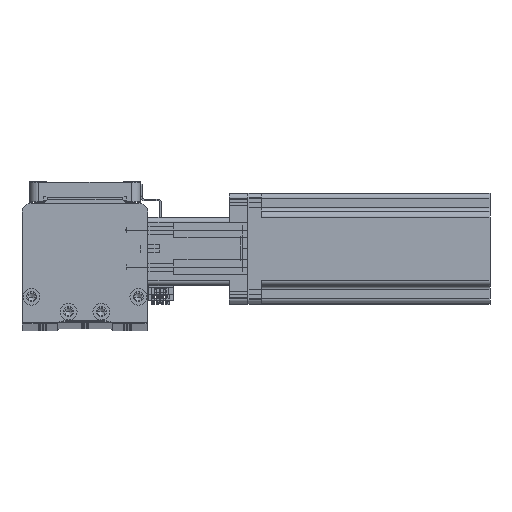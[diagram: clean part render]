
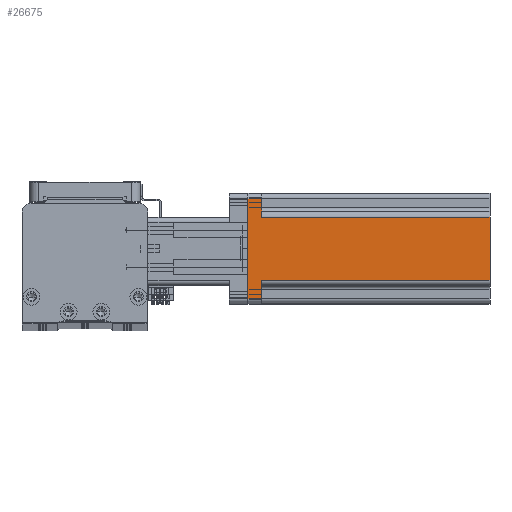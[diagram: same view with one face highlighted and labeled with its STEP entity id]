
A CAD part, top view. The second image highlights one B-rep face of the part: STEP entity #26675.
In plain terms, the highlighted planar face has unit normal (0, 0, 1) as drawn and (1, 0, 0) by its records, which use the part's own axes.
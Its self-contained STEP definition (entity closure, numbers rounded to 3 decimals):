
#130 = CARTESIAN_POINT ( 'NONE',  ( 30., 17., 7.5 ) ) ;
#3637 = DIRECTION ( 'NONE',  ( 0., 0., 1. ) ) ;
#3923 = VERTEX_POINT ( 'NONE', #5520 ) ;
#4295 = LINE ( 'NONE', #47580, #37083 ) ;
#5255 = VECTOR ( 'NONE', #32920, 1000. ) ;
#5520 = CARTESIAN_POINT ( 'NONE',  ( 30., -27., 7.5 ) ) ;
#5570 = CARTESIAN_POINT ( 'NONE',  ( 30., -17., 130.7 ) ) ;
#6726 = CARTESIAN_POINT ( 'NONE',  ( 30., -30., 7.5 ) ) ;
#7429 = ORIENTED_EDGE ( 'NONE', *, *, #41525, .T. ) ;
#8061 = VERTEX_POINT ( 'NONE', #5570 ) ;
#8701 = CARTESIAN_POINT ( 'NONE',  ( 30., -17., 7.5 ) ) ;
#9773 = VERTEX_POINT ( 'NONE', #35119 ) ;
#10075 = ORIENTED_EDGE ( 'NONE', *, *, #31363, .T. ) ;
#10107 = VECTOR ( 'NONE', #10841, 1000. ) ;
#10757 = CARTESIAN_POINT ( 'NONE',  ( 30., -17., 7.5 ) ) ;
#10841 = DIRECTION ( 'NONE',  ( 0., 1., 0. ) ) ;
#11237 = DIRECTION ( 'NONE',  ( 0., 1., 0. ) ) ;
#11834 = LINE ( 'NONE', #54024, #13192 ) ;
#12831 = VECTOR ( 'NONE', #16103, 1000. ) ;
#13192 = VECTOR ( 'NONE', #11237, 1000. ) ;
#13734 = FACE_OUTER_BOUND ( 'NONE', #39872, .T. ) ;
#13885 = EDGE_CURVE ( 'NONE', #44485, #3923, #22839, .T. ) ;
#15993 = VERTEX_POINT ( 'NONE', #20155 ) ;
#16103 = DIRECTION ( 'NONE',  ( 0., 0., -1. ) ) ;
#18785 = EDGE_CURVE ( 'NONE', #8061, #44485, #19714, .T. ) ;
#19714 = LINE ( 'NONE', #10757, #53839 ) ;
#20155 = CARTESIAN_POINT ( 'NONE',  ( 30., 27., 7.5 ) ) ;
#20655 = ORIENTED_EDGE ( 'NONE', *, *, #29610, .T. ) ;
#21408 = LINE ( 'NONE', #32089, #10107 ) ;
#21726 = CARTESIAN_POINT ( 'NONE',  ( 30., 27., 130.7 ) ) ;
#21866 = ORIENTED_EDGE ( 'NONE', *, *, #39496, .T. ) ;
#21960 = DIRECTION ( 'NONE',  ( 0., 0., 1. ) ) ;
#22198 = CARTESIAN_POINT ( 'NONE',  ( 30., 17., 130.7 ) ) ;
#22839 = LINE ( 'NONE', #6726, #34201 ) ;
#22965 = EDGE_CURVE ( 'NONE', #8061, #49496, #50723, .T. ) ;
#26675 = ADVANCED_FACE ( 'NONE', ( #13734 ), #28844, .F. ) ;
#28817 = EDGE_CURVE ( 'NONE', #31618, #15993, #11834, .T. ) ;
#28844 = PLANE ( 'NONE',  #29386 ) ;
#29207 = DIRECTION ( 'NONE',  ( -1., 0., 0. ) ) ;
#29386 = AXIS2_PLACEMENT_3D ( 'NONE', #54886, #29207, #3637 ) ;
#29610 = EDGE_CURVE ( 'NONE', #31618, #49496, #4295, .T. ) ;
#30297 = DIRECTION ( 'NONE',  ( 0., 0., 1. ) ) ;
#31363 = EDGE_CURVE ( 'NONE', #9773, #43599, #21408, .T. ) ;
#31401 = CARTESIAN_POINT ( 'NONE',  ( 30., 27., 0. ) ) ;
#31618 = VERTEX_POINT ( 'NONE', #130 ) ;
#32089 = CARTESIAN_POINT ( 'NONE',  ( 30., -30., 0. ) ) ;
#32289 = DIRECTION ( 'NONE',  ( 0., -1., 0. ) ) ;
#32920 = DIRECTION ( 'NONE',  ( 0., 1., 0. ) ) ;
#34201 = VECTOR ( 'NONE', #32289, 1000. ) ;
#35119 = CARTESIAN_POINT ( 'NONE',  ( 30., -27., 0. ) ) ;
#37083 = VECTOR ( 'NONE', #21960, 1000. ) ;
#37574 = CARTESIAN_POINT ( 'NONE',  ( 30., -27., 130.7 ) ) ;
#39496 = EDGE_CURVE ( 'NONE', #43599, #15993, #39986, .T. ) ;
#39872 = EDGE_LOOP ( 'NONE', ( #43601, #49546, #40847, #7429, #10075, #21866, #47546, #20655 ) ) ;
#39986 = LINE ( 'NONE', #21726, #50011 ) ;
#40615 = DIRECTION ( 'NONE',  ( 0., 0., -1. ) ) ;
#40847 = ORIENTED_EDGE ( 'NONE', *, *, #13885, .T. ) ;
#41525 = EDGE_CURVE ( 'NONE', #3923, #9773, #45572, .T. ) ;
#43599 = VERTEX_POINT ( 'NONE', #31401 ) ;
#43601 = ORIENTED_EDGE ( 'NONE', *, *, #22965, .F. ) ;
#44485 = VERTEX_POINT ( 'NONE', #8701 ) ;
#45572 = LINE ( 'NONE', #37574, #12831 ) ;
#45658 = CARTESIAN_POINT ( 'NONE',  ( 30., -30., 130.7 ) ) ;
#47546 = ORIENTED_EDGE ( 'NONE', *, *, #28817, .F. ) ;
#47580 = CARTESIAN_POINT ( 'NONE',  ( 30., 17., 130.7 ) ) ;
#49496 = VERTEX_POINT ( 'NONE', #22198 ) ;
#49546 = ORIENTED_EDGE ( 'NONE', *, *, #18785, .T. ) ;
#50011 = VECTOR ( 'NONE', #30297, 1000. ) ;
#50723 = LINE ( 'NONE', #45658, #5255 ) ;
#53839 = VECTOR ( 'NONE', #40615, 1000. ) ;
#54024 = CARTESIAN_POINT ( 'NONE',  ( 30., 30., 7.5 ) ) ;
#54886 = CARTESIAN_POINT ( 'NONE',  ( 30., -30., 130.7 ) ) ;
